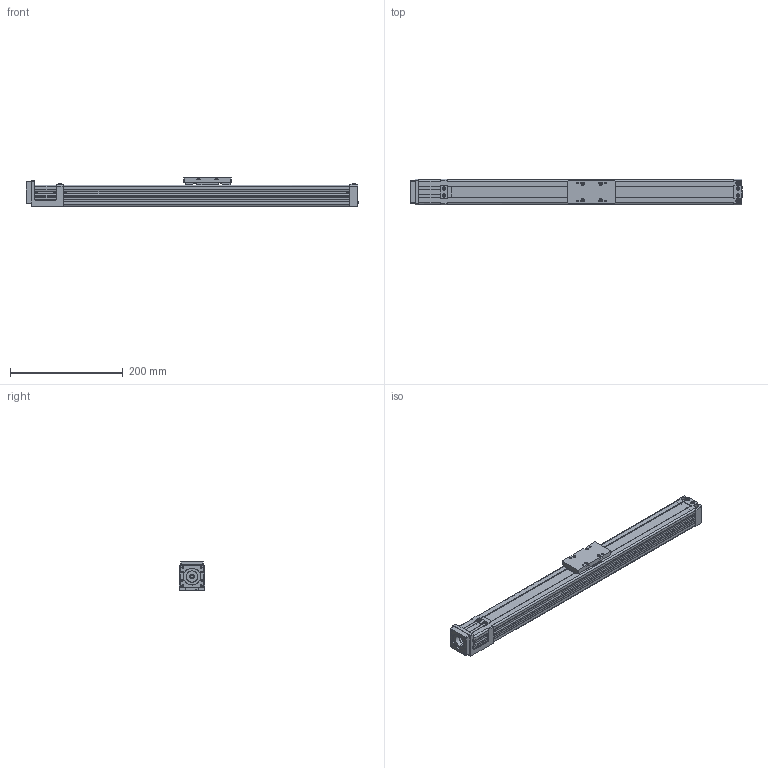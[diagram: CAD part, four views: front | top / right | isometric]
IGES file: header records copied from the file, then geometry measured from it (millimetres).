
Global section: file name: No Iges File Name specified; native system: AutoDesk Inventor R10; preprocessor: AutoDesk Inventor Iges Exporter R10; author: No Author specified; organization: No Organization specified; date: 20110617.143939; units: millimetre
Bounding box: 589 x 45 x 50 mm (x, y, z)
Surface area: 232722.7 mm2 (no closed solid volume)
Topology: 0 solids, 0 shells, 813 faces, 5402 edges, 5382 vertices
Faces by surface type: bspline 813
